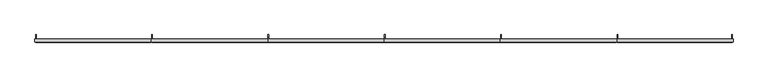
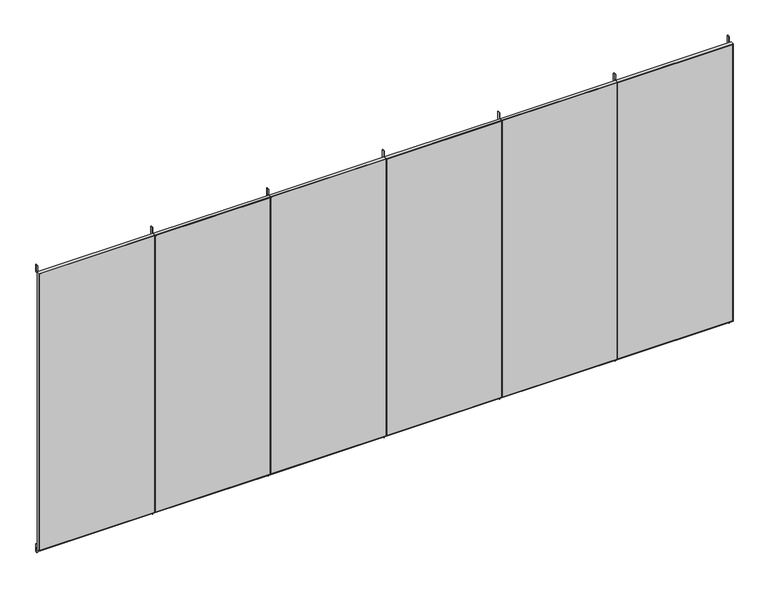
"""IFC4 building model written with IfcOpenShell, lengths in millimetres: furniture geometry, H06 Protección 6 módulos : H6.2 Protección 6 módulos 721x315."""

import ifcopenshell
import ifcopenshell.guid

model = None  # the IFC model being written
_history = None  # IfcOwnerHistory: only IFC2X3 demands one
_inside = {}  # id of a spatial element -> (the spatial element, [elements in it])
_under = {}  # id of a project, library or spatial element -> (it, [spatial elements below it])
_declared = {}  # id of a project -> (the project, [libraries it declares])
_typed = {}  # id of a type object -> (the type object, [elements of that type])
_made_of = {}  # id of a material, layer set ... -> (it, [elements and type objects made of it])


def new_model(schema):
    """Start an empty IFC model of exactly this schema.

    Asked for "IFC4X3", IfcOpenShell would pick the latest addendum, in which some entities
    have other attributes; the version numbers below select the first issue.
    IFC2X3 requires an IfcOwnerHistory on every rooted entity: one is made here for all.
    """
    global model, _history
    if schema == "IFC4X3":
        model = ifcopenshell.file(schema_version=(4, 3, 0, 0))
    else:
        model = ifcopenshell.file(schema=schema)
    _inside.clear()
    _under.clear()
    _declared.clear()
    _typed.clear()
    _made_of.clear()
    _history = None
    if model.schema == "IFC2X3":
        org = make("IfcOrganization", Name="unknown")
        user = make(
            "IfcPersonAndOrganization",
            ThePerson=make("IfcPerson", FamilyName="unknown"),
            TheOrganization=org,
        )
        app = make(
            "IfcApplication",
            ApplicationDeveloper=org,
            Version="unknown",
            ApplicationFullName="unknown",
            ApplicationIdentifier="unknown",
        )
        _history = make(
            "IfcOwnerHistory",
            OwningUser=user,
            OwningApplication=app,
            ChangeAction="ADDED",
            CreationDate=0,
        )
    return model


def make(cls, **values):
    """One entity of the class cls with the attributes given. An attribute that is None is left unset."""
    return model.create_entity(
        cls, **{name: value for name, value in values.items() if value is not None}
    )


def rooted(cls, **values):
    """An entity with a GlobalId (a new one), such as an element, a storey or a relation."""
    return make(cls, GlobalId=ifcopenshell.guid.new(), OwnerHistory=_history, **values)


def si_unit(unit_type, name, prefix=None):
    """IfcSIUnit, for example si_unit("LENGTHUNIT", "METRE", prefix="MILLI")."""
    return make("IfcSIUnit", UnitType=unit_type, Prefix=prefix, Name=name)


def assignment(units):
    """IfcUnitAssignment: the units of a project."""
    return None if units is None else make("IfcUnitAssignment", Units=units)


def point(xyz):
    """IfcCartesianPoint."""
    return None if xyz is None else make("IfcCartesianPoint", Coordinates=xyz)


def direction(xyz):
    """IfcDirection."""
    return None if xyz is None else make("IfcDirection", DirectionRatios=xyz)


def frame(location, z_axis=None, x_axis=None):
    """IfcAxis2Placement3D, a coordinate frame: its origin and axes. An axis left out is left unset."""
    return make(
        "IfcAxis2Placement3D",
        Location=point(location),
        Axis=direction(z_axis),
        RefDirection=direction(x_axis),
    )


def origin():
    """The frame at (0, 0, 0) with its axes left unset."""
    return frame((0.0, 0.0, 0.0))


def place(relative_to, where):
    """IfcLocalPlacement: puts the frame where relative to a parent placement (None: the world)."""
    return make(
        "IfcLocalPlacement", PlacementRelTo=relative_to, RelativePlacement=where
    )


def context(
    kind, dimensions, precision=None, world=None, true_north=None, identifier=None
):
    """IfcGeometricRepresentationContext, for example the 3D "Model" context."""
    return make(
        "IfcGeometricRepresentationContext",
        ContextIdentifier=identifier,
        ContextType=kind,
        CoordinateSpaceDimension=dimensions,
        Precision=precision,
        WorldCoordinateSystem=world,
        TrueNorth=true_north,
    )


def project(units=None, contexts=None):
    """IfcProject with its units and contexts."""
    return rooted(
        "IfcProject",
        Name="project",
        RepresentationContexts=contexts,
        UnitsInContext=assignment(units),
    )


def spatial(cls, under=None, at=None, **own):
    """A site, building, storey or space (cls), placed at a placement, below another one or the project."""
    s = rooted(cls, ObjectPlacement=at, **own)
    if under is not None:
        _under.setdefault(under.id(), (under, []))[1].append(s)
    return s


def polyline(points):
    """IfcPolyline through the points."""
    return make("IfcPolyline", Points=[point(p) for p in points])


def outline(outer, holes=None, kind="AREA"):
    """IfcArbitraryClosedProfileDef: a profile drawn as a closed curve; with holes, ...WithVoids."""
    if holes is None:
        return make("IfcArbitraryClosedProfileDef", ProfileType=kind, OuterCurve=outer)
    return make(
        "IfcArbitraryProfileDefWithVoids",
        ProfileType=kind,
        OuterCurve=outer,
        InnerCurves=holes,
    )


def extrude(swept, where, along, depth):
    """IfcExtrudedAreaSolid: the profile swept, set in the frame where, extruded along a direction by depth."""
    return make(
        "IfcExtrudedAreaSolid",
        SweptArea=swept,
        Position=where,
        ExtrudedDirection=direction(along),
        Depth=depth,
    )


def shape(context_of_items, identifier, shape_type, items):
    """IfcShapeRepresentation: the items that make up one representation, for example the "Body"."""
    return make(
        "IfcShapeRepresentation",
        ContextOfItems=context_of_items,
        RepresentationIdentifier=identifier,
        RepresentationType=shape_type,
        Items=items,
    )


def source(mapping_origin, context_of_items, identifier, shape_type, items):
    """IfcRepresentationMap: a shape defined once, which mapped items show again and again."""
    return make(
        "IfcRepresentationMap",
        MappingOrigin=mapping_origin,
        MappedRepresentation=shape(context_of_items, identifier, shape_type, items),
    )


def transform(
    local_origin,
    x_axis=None,
    y_axis=None,
    z_axis=None,
    scale=None,
    scale2=None,
    scale3=None,
    uniform=True,
):
    """IfcCartesianTransformationOperator3D, or its non-uniform kind. x_axis, y_axis, z_axis: its Axis1, 2, 3."""
    if uniform:
        return make(
            "IfcCartesianTransformationOperator3D",
            Axis1=direction(x_axis),
            Axis2=direction(y_axis),
            LocalOrigin=point(local_origin),
            Scale=scale,
            Axis3=direction(z_axis),
        )
    return make(
        "IfcCartesianTransformationOperator3DnonUniform",
        Axis1=direction(x_axis),
        Axis2=direction(y_axis),
        LocalOrigin=point(local_origin),
        Scale=scale,
        Axis3=direction(z_axis),
        Scale2=scale2,
        Scale3=scale3,
    )


def mapped(mapping_source, mapping_target):
    """IfcMappedItem: shows the shape of a source again, moved by a transform."""
    return make(
        "IfcMappedItem", MappingSource=mapping_source, MappingTarget=mapping_target
    )


def made_of(thing, what):
    """Note that an element or type object is made of a material, layer set ...; save() writes the relation."""
    if what is not None:
        _made_of.setdefault(what.id(), (what, []))[1].append(thing)
    return thing


def element(
    cls,
    number,
    at=None,
    inside=None,
    cuts=None,
    type_object=None,
    material=None,
    context=None,
    identifier="Body",
    shape_type=None,
    held_by="IfcProductDefinitionShape",
    body=None,
    shapes=None,
    **own,
):
    """One element of the class cls, such as IfcWall. Its Tag is "e" and its number.

    at: its placement. inside: the storey or other place that contains it. cuts: it is an
    opening in that element (IfcRelVoidsElement). A single representation is given by context,
    identifier, shape_type and body (its items); several are given by shapes. held_by: the class
    of the entity that holds the representations. save() writes the other relations.
    """
    e = rooted(cls, Tag="e%d" % number, ObjectPlacement=at, **own)
    if body is not None:
        shapes = [shape(context, identifier, shape_type, body)]
    if shapes is not None:
        e.Representation = make(held_by, Representations=shapes)
    if inside is not None:
        _inside.setdefault(inside.id(), (inside, []))[1].append(e)
    if cuts is not None:
        rooted(
            "IfcRelVoidsElement", RelatingBuildingElement=cuts, RelatedOpeningElement=e
        )
    if type_object is not None:
        _typed.setdefault(type_object.id(), (type_object, []))[1].append(e)
    return made_of(e, material)


def aggregate(whole, parts):
    """IfcRelAggregates: a whole, such as a stair, and the parts it consists of."""
    return rooted("IfcRelAggregates", RelatingObject=whole, RelatedObjects=parts)


def save(model, path):
    """Write the relations noted so far, then the file.

    IfcRelAggregates (storeys below a building ...), IfcRelContainedInSpatialStructure (elements
    in a storey), IfcRelDefinesByType, IfcRelAssociatesMaterial and IfcRelDeclares: one each for
    every whole, place, type object, material and project.
    """
    for whole, parts in _under.values():
        aggregate(whole, parts)
    for where, things in _inside.values():
        rooted(
            "IfcRelContainedInSpatialStructure",
            RelatedElements=things,
            RelatingStructure=where,
        )
    for kind, things in _typed.values():
        rooted("IfcRelDefinesByType", RelatedObjects=things, RelatingType=kind)
    for what, things in _made_of.values():
        rooted("IfcRelAssociatesMaterial", RelatedObjects=things, RelatingMaterial=what)
    for by, libraries in _declared.values():
        rooted("IfcRelDeclares", RelatingContext=by, RelatedDefinitions=libraries)
    model.write(path)


def furniture_e9ee7769(model_context):
    return source(origin(), model_context, "Body", "SweptSolid", [
        extrude(outline(polyline([(3100.0, 3649.7003264), (3100.0, 2448.0336598), (50.0, 2448.0336598), (50.0, 3649.7003264), (3100.0, 3649.7003264)]), holes=[polyline([(3093.0, 3646.2003264), (57.0, 3646.2003264), (57.0, 2451.5336598), (3093.0, 2451.5336598), (3093.0, 3646.2003264)])]), frame((0.0, -600.0, 0.0), z_axis=(0.0, 1.0, 0.0), x_axis=(0.0, 0.0, 1.0)), (0.0, 0.0, 1.0), 32.0),
        extrude(outline(polyline([(3646.2003264, -600.0), (2451.5336598, -600.0), (2451.5336598, -597.0), (3646.2003264, -597.0), (3646.2003264, -600.0)])), frame((0.0, 0.0, 57.0), z_axis=(0.0, 0.0, 1.0), x_axis=(1.0, 0.0, 0.0)), (0.0, 0.0, 1.0), 3036.0),
        extrude(outline(polyline([(3100.0, 2448.0336598), (3100.0, 1246.3669931), (50.0, 1246.3669931), (50.0, 2448.0336598), (3100.0, 2448.0336598)]), holes=[polyline([(3093.0, 2444.5336598), (57.0, 2444.5336598), (57.0, 1249.8669931), (3093.0, 1249.8669931), (3093.0, 2444.5336598)])]), frame((0.0, -600.0, 0.0), z_axis=(0.0, 1.0, 0.0), x_axis=(0.0, 0.0, 1.0)), (0.0, 0.0, 1.0), 32.0),
        extrude(outline(polyline([(2444.5336598, -600.0), (1249.8669931, -600.0), (1249.8669931, -597.0), (2444.5336598, -597.0), (2444.5336598, -600.0)])), frame((0.0, 0.0, 57.0), z_axis=(0.0, 0.0, 1.0), x_axis=(1.0, 0.0, 0.0)), (0.0, 0.0, 1.0), 3036.0),
        extrude(outline(polyline([(3100.0, 44.7003264), (3100.0, -1156.9663402), (50.0, -1156.9663402), (50.0, 44.7003264), (3100.0, 44.7003264)]), holes=[polyline([(3093.0, 41.2003264), (57.0, 41.2003264), (57.0, -1153.4663402), (3093.0, -1153.4663402), (3093.0, 41.2003264)])]), frame((0.0, -600.0, 0.0), z_axis=(0.0, 1.0, 0.0), x_axis=(0.0, 0.0, 1.0)), (0.0, 0.0, 1.0), 32.0),
        extrude(outline(polyline([(4844.3669931, -600.0), (3653.2003264, -600.0), (3653.2003264, -597.0), (4844.3669931, -597.0), (4844.3669931, -600.0)])), frame((0.0, 0.0, 57.0), z_axis=(0.0, 0.0, 1.0), x_axis=(1.0, 0.0, 0.0)), (0.0, 0.0, 1.0), 3036.0),
        extrude(outline(polyline([(3100.0, 4851.3669931), (3100.0, 3649.7003264), (50.0, 3649.7003264), (50.0, 4851.3669931), (3100.0, 4851.3669931)]), holes=[polyline([(3093.0, 4844.3669931), (57.0, 4844.3669931), (57.0, 3653.2003264), (3093.0, 3653.2003264), (3093.0, 4844.3669931)])]), frame((0.0, -600.0, 0.0), z_axis=(0.0, 1.0, 0.0), x_axis=(0.0, 0.0, 1.0)), (0.0, 0.0, 1.0), 32.0),
        extrude(outline(polyline([(1242.8669931, -600.0), (48.2003264, -600.0), (48.2003264, -597.0), (1242.8669931, -597.0), (1242.8669931, -600.0)])), frame((0.0, 0.0, 57.0), z_axis=(0.0, 0.0, 1.0), x_axis=(1.0, 0.0, 0.0)), (0.0, 0.0, 1.0), 3036.0),
        extrude(outline(polyline([(3100.0, 1246.3669931), (3100.0, 44.7003264), (50.0, 44.7003264), (50.0, 1246.3669931), (3100.0, 1246.3669931)]), holes=[polyline([(3093.0, 1242.8669931), (57.0, 1242.8669931), (57.0, 48.2003264), (3093.0, 48.2003264), (3093.0, 1242.8669931)])]), frame((0.0, -600.0, 0.0), z_axis=(0.0, 1.0, 0.0), x_axis=(0.0, 0.0, 1.0)), (0.0, 0.0, 1.0), 32.0),
        extrude(outline(polyline([(41.2003264, -600.0), (-1153.4663402, -600.0), (-1153.4663402, -597.0), (41.2003264, -597.0), (41.2003264, -600.0)])), frame((0.0, 0.0, 57.0), z_axis=(0.0, 0.0, 1.0), x_axis=(1.0, 0.0, 0.0)), (0.0, 0.0, 1.0), 3036.0),
        extrude(outline(polyline([(-1160.4663402, -600.0), (-2351.6330069, -600.0), (-2351.6330069, -597.0), (-1160.4663402, -597.0), (-1160.4663402, -600.0)])), frame((0.0, 0.0, 57.0), z_axis=(0.0, 0.0, 1.0), x_axis=(1.0, 0.0, 0.0)), (0.0, 0.0, 1.0), 3036.0),
        extrude(outline(polyline([(3100.0, -1156.9663402), (3100.0, -2358.6330069), (50.0, -2358.6330069), (50.0, -1156.9663402), (3100.0, -1156.9663402)]), holes=[polyline([(3093.0, -1160.4663402), (57.0, -1160.4663402), (57.0, -2351.6330069), (3093.0, -2351.6330069), (3093.0, -1160.4663402)])]), frame((0.0, -600.0, 0.0), z_axis=(0.0, 1.0, 0.0), x_axis=(0.0, 0.0, 1.0)), (0.0, 0.0, 1.0), 32.0),
        extrude(outline(polyline([(-522.0, 3068.0), (-597.0, 3068.0), (-597.0, 3093.0), (-547.0, 3093.0), (-547.0, 3150.0), (-522.0, 3150.0), (-522.0, 3068.0)])), frame((2451.5336598, 0.0, 0.0), z_axis=(1.0, 0.0, 0.0), x_axis=(0.0, 1.0, 0.0)), (0.0, 0.0, 1.0), 7.0),
        extrude(outline(polyline([(-522.0, 82.0), (-522.0, 0.0), (-547.0, 0.0), (-547.0, 57.0), (-597.0, 57.0), (-597.0, 82.0), (-522.0, 82.0)])), frame((2451.5336598, 0.0, 0.0), z_axis=(1.0, 0.0, 0.0), x_axis=(0.0, 1.0, 0.0)), (0.0, 0.0, 1.0), 7.0),
        extrude(outline(polyline([(-522.0, 3068.0), (-597.0, 3068.0), (-597.0, 3093.0), (-547.0, 3093.0), (-547.0, 3150.0), (-522.0, 3150.0), (-522.0, 3068.0)])), frame((3653.2003264, 0.0, 0.0), z_axis=(1.0, 0.0, 0.0), x_axis=(0.0, 1.0, 0.0)), (0.0, 0.0, 1.0), 7.0),
        extrude(outline(polyline([(-522.0, 82.0), (-522.0, 0.0), (-547.0, 0.0), (-547.0, 57.0), (-597.0, 57.0), (-597.0, 82.0), (-522.0, 82.0)])), frame((3653.2003264, 0.0, 0.0), z_axis=(1.0, 0.0, 0.0), x_axis=(0.0, 1.0, 0.0)), (0.0, 0.0, 1.0), 7.0),
        extrude(outline(polyline([(-522.0, 3068.0), (-597.0, 3068.0), (-597.0, 3093.0), (-547.0, 3093.0), (-547.0, 3150.0), (-522.0, 3150.0), (-522.0, 3068.0)])), frame((-2351.6330069, 0.0, 0.0), z_axis=(1.0, 0.0, 0.0), x_axis=(0.0, 1.0, 0.0)), (0.0, 0.0, 1.0), 7.0),
        extrude(outline(polyline([(-522.0, 3068.0), (-597.0, 3068.0), (-597.0, 3093.0), (-547.0, 3093.0), (-547.0, 3150.0), (-522.0, 3150.0), (-522.0, 3068.0)])), frame((-1153.4663402, 0.0, 0.0), z_axis=(1.0, 0.0, 0.0), x_axis=(0.0, 1.0, 0.0)), (0.0, 0.0, 1.0), 7.0),
        extrude(outline(polyline([(-522.0, 3068.0), (-597.0, 3068.0), (-597.0, 3093.0), (-547.0, 3093.0), (-547.0, 3150.0), (-522.0, 3150.0), (-522.0, 3068.0)])), frame((4837.3669931, 0.0, 0.0), z_axis=(1.0, 0.0, 0.0), x_axis=(0.0, 1.0, 0.0)), (0.0, 0.0, 1.0), 7.0),
        extrude(outline(polyline([(-522.0, 3068.0), (-597.0, 3068.0), (-597.0, 3093.0), (-547.0, 3093.0), (-547.0, 3150.0), (-522.0, 3150.0), (-522.0, 3068.0)])), frame((1249.8669931, 0.0, 0.0), z_axis=(1.0, 0.0, 0.0), x_axis=(0.0, 1.0, 0.0)), (0.0, 0.0, 1.0), 7.0),
        extrude(outline(polyline([(-522.0, 82.0), (-522.0, 0.0), (-547.0, 0.0), (-547.0, 57.0), (-597.0, 57.0), (-597.0, 82.0), (-522.0, 82.0)])), frame((4837.3669931, 0.0, 0.0), z_axis=(1.0, 0.0, 0.0), x_axis=(0.0, 1.0, 0.0)), (0.0, 0.0, 1.0), 7.0),
        extrude(outline(polyline([(-522.0, 82.0), (-522.0, 0.0), (-547.0, 0.0), (-547.0, 57.0), (-597.0, 57.0), (-597.0, 82.0), (-522.0, 82.0)])), frame((1249.8669931, 0.0, 0.0), z_axis=(1.0, 0.0, 0.0), x_axis=(0.0, 1.0, 0.0)), (0.0, 0.0, 1.0), 7.0),
        extrude(outline(polyline([(-522.0, 82.0), (-522.0, 0.0), (-547.0, 0.0), (-547.0, 57.0), (-597.0, 57.0), (-597.0, 82.0), (-522.0, 82.0)])), frame((-2351.6330069, 0.0, 0.0), z_axis=(1.0, 0.0, 0.0), x_axis=(0.0, 1.0, 0.0)), (0.0, 0.0, 1.0), 7.0),
        extrude(outline(polyline([(-522.0, 82.0), (-522.0, 0.0), (-547.0, 0.0), (-547.0, 57.0), (-597.0, 57.0), (-597.0, 82.0), (-522.0, 82.0)])), frame((-1153.4663402, 0.0, 0.0), z_axis=(1.0, 0.0, 0.0), x_axis=(0.0, 1.0, 0.0)), (0.0, 0.0, 1.0), 7.0),
        extrude(outline(polyline([(-522.0, 3068.0), (-597.0, 3068.0), (-597.0, 3093.0), (-547.0, 3093.0), (-547.0, 3150.0), (-522.0, 3150.0), (-522.0, 3068.0)])), frame((48.2003264, 0.0, 0.0), z_axis=(1.0, 0.0, 0.0), x_axis=(0.0, 1.0, 0.0)), (0.0, 0.0, 1.0), 7.0),
        extrude(outline(polyline([(-522.0, 82.0), (-522.0, 0.0), (-547.0, 0.0), (-547.0, 57.0), (-597.0, 57.0), (-597.0, 82.0), (-522.0, 82.0)])), frame((48.2003264, 0.0, 0.0), z_axis=(1.0, 0.0, 0.0), x_axis=(0.0, 1.0, 0.0)), (0.0, 0.0, 1.0), 7.0),
    ])


if __name__ == "__main__":
    model = new_model("IFC4")
    model_context = context("Model", 3, world=origin())
    ifc_project = project(units=[si_unit("LENGTHUNIT", "METRE", prefix="MILLI")], contexts=[model_context])
    site = spatial("IfcSite", under=ifc_project)
    building = spatial("IfcBuilding", under=site)
    placement = place(None, origin())
    furniture_shape = furniture_e9ee7769(model_context)
    element("IfcFurniture", 1, ObjectType="H06 Protección 6 módulos : H6.2 Protección 6 módulos 721x315", at=placement, inside=building, context=model_context, shape_type="MappedRepresentation", body=[
        mapped(furniture_shape, transform((0.0, 0.0, 0.0), x_axis=(1.0, 0.0, 0.0), y_axis=(0.0, 1.0, 0.0), z_axis=(0.0, 0.0, 1.0))),
    ])
    save(model, "model.ifc")
